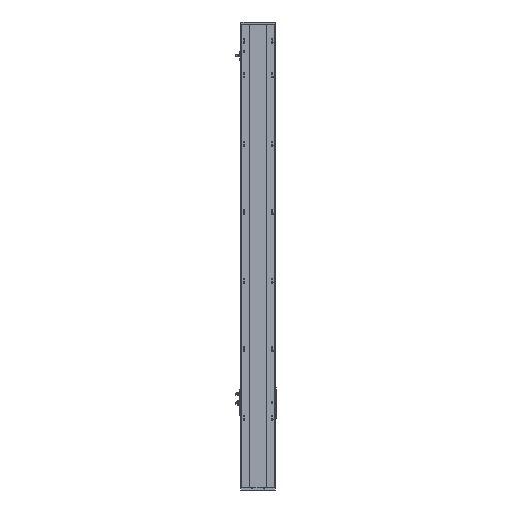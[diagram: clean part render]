
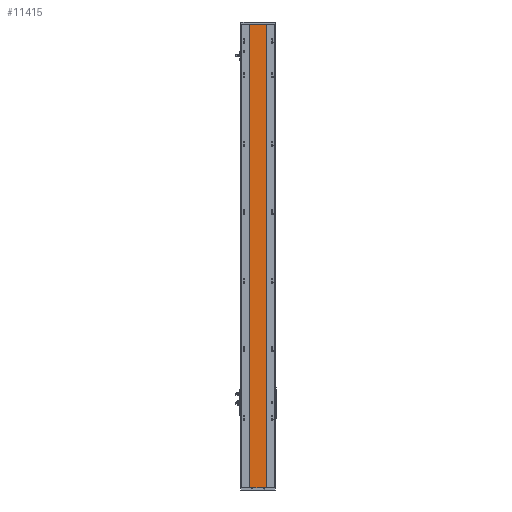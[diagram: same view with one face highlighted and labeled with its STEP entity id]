
A CAD part, front view. The second image highlights one B-rep face of the part: STEP entity #11415.
In plain terms, the highlighted planar face has unit normal (0, -1, 0).
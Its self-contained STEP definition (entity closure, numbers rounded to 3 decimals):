
#79 = ORIENTED_EDGE ( 'NONE', *, *, #16101, .T. ) ;
#339 = CARTESIAN_POINT ( 'NONE',  ( 1579.351, 60.479, -1355. ) ) ;
#694 = EDGE_CURVE ( 'NONE', #18935, #3249, #15736, .T. ) ;
#1632 = CARTESIAN_POINT ( 'NONE',  ( 1628.351, 60.479, 0. ) ) ;
#1999 = DIRECTION ( 'NONE',  ( 1., 0., 0. ) ) ;
#2329 = LINE ( 'NONE', #339, #13458 ) ;
#2455 = VECTOR ( 'NONE', #1999, 1000. ) ;
#3249 = VERTEX_POINT ( 'NONE', #14424 ) ;
#3848 = EDGE_CURVE ( 'NONE', #7310, #10580, #7910, .T. ) ;
#4790 = EDGE_CURVE ( 'NONE', #18935, #7310, #2329, .T. ) ;
#5017 = DIRECTION ( 'NONE',  ( 0., 0., -1. ) ) ;
#5892 = CARTESIAN_POINT ( 'NONE',  ( 1579.351, 60.479, 0. ) ) ;
#6515 = VECTOR ( 'NONE', #19929, 1000. ) ;
#7310 = VERTEX_POINT ( 'NONE', #18553 ) ;
#7910 = LINE ( 'NONE', #5892, #6515 ) ;
#8256 = LINE ( 'NONE', #21733, #18405 ) ;
#8455 = AXIS2_PLACEMENT_3D ( 'NONE', #16734, #13490, #5017 ) ;
#8567 = PLANE ( 'NONE',  #8455 ) ;
#9269 = EDGE_LOOP ( 'NONE', ( #15773, #13699, #15439, #79 ) ) ;
#10580 = VERTEX_POINT ( 'NONE', #1632 ) ;
#11415 = ADVANCED_FACE ( 'NONE', ( #16844 ), #8567, .T. ) ;
#11574 = DIRECTION ( 'NONE',  ( 0., 0., 1. ) ) ;
#13458 = VECTOR ( 'NONE', #17832, 1000. ) ;
#13490 = DIRECTION ( 'NONE',  ( 0., -1., 0. ) ) ;
#13699 = ORIENTED_EDGE ( 'NONE', *, *, #4790, .F. ) ;
#14424 = CARTESIAN_POINT ( 'NONE',  ( 1628.351, 60.479, -1355. ) ) ;
#14457 = CARTESIAN_POINT ( 'NONE',  ( 1579.351, 60.479, -1355. ) ) ;
#15439 = ORIENTED_EDGE ( 'NONE', *, *, #694, .T. ) ;
#15736 = LINE ( 'NONE', #21066, #2455 ) ;
#15773 = ORIENTED_EDGE ( 'NONE', *, *, #3848, .F. ) ;
#16101 = EDGE_CURVE ( 'NONE', #3249, #10580, #8256, .T. ) ;
#16734 = CARTESIAN_POINT ( 'NONE',  ( 1579.351, 60.479, -1355. ) ) ;
#16844 = FACE_OUTER_BOUND ( 'NONE', #9269, .T. ) ;
#17832 = DIRECTION ( 'NONE',  ( 0., 0., 1. ) ) ;
#18405 = VECTOR ( 'NONE', #11574, 1000. ) ;
#18553 = CARTESIAN_POINT ( 'NONE',  ( 1579.351, 60.479, 0. ) ) ;
#18935 = VERTEX_POINT ( 'NONE', #14457 ) ;
#19929 = DIRECTION ( 'NONE',  ( 1., 0., 0. ) ) ;
#21066 = CARTESIAN_POINT ( 'NONE',  ( 1579.351, 60.479, -1355. ) ) ;
#21733 = CARTESIAN_POINT ( 'NONE',  ( 1628.351, 60.479, -1355. ) ) ;
